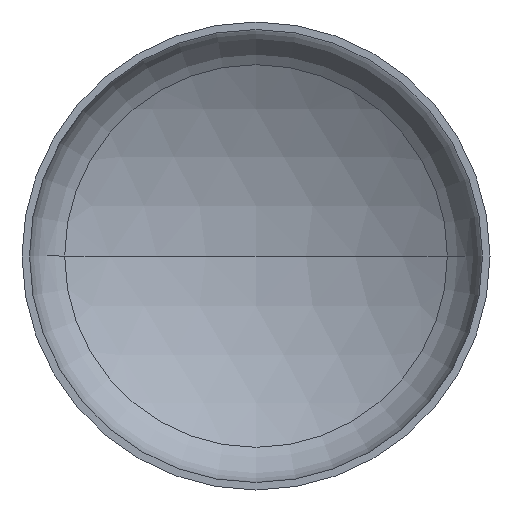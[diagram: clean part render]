
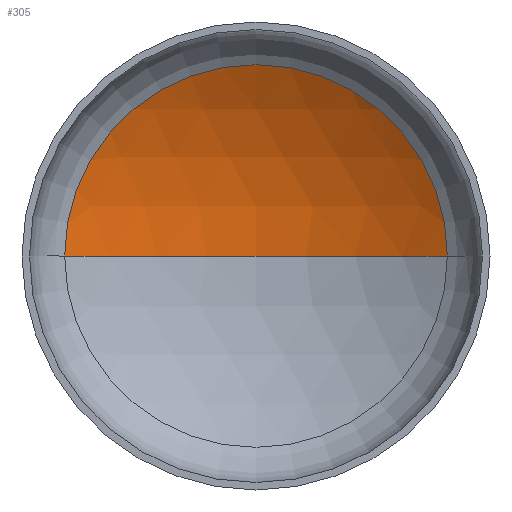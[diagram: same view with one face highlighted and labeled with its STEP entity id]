
A CAD part, front view. The second image highlights one B-rep face of the part: STEP entity #305.
In plain terms, the highlighted spherical face has radius 2240 mm.
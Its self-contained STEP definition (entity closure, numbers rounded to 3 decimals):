
#4 = ORIENTED_EDGE ( 'NONE', *, *, #130, .T. ) ;
#6 = DIRECTION ( 'NONE',  ( 0., -1., 0. ) ) ;
#16 = EDGE_LOOP ( 'NONE', ( #23, #4, #129 ) ) ;
#23 = ORIENTED_EDGE ( 'NONE', *, *, #131, .F. ) ;
#36 = DIRECTION ( 'NONE',  ( 0., 0., 1. ) ) ;
#43 = AXIS2_PLACEMENT_3D ( 'NONE', #140, #399, #150 ) ;
#54 = AXIS2_PLACEMENT_3D ( 'NONE', #267, #36, #196 ) ;
#57 = AXIS2_PLACEMENT_3D ( 'NONE', #281, #193, #219 ) ;
#62 = AXIS2_PLACEMENT_3D ( 'NONE', #141, #6, #335 ) ;
#95 = VERTEX_POINT ( 'NONE', #239 ) ;
#104 = VERTEX_POINT ( 'NONE', #235 ) ;
#110 = VERTEX_POINT ( 'NONE', #241 ) ;
#128 = EDGE_CURVE ( 'NONE', #104, #95, #322, .T. ) ;
#129 = ORIENTED_EDGE ( 'NONE', *, *, #128, .T. ) ;
#130 = EDGE_CURVE ( 'NONE', #110, #104, #200, .T. ) ;
#131 = EDGE_CURVE ( 'NONE', #110, #95, #377, .T. ) ;
#140 = CARTESIAN_POINT ( 'NONE',  ( 0., -1415.788, 0. ) ) ;
#141 = CARTESIAN_POINT ( 'NONE',  ( 0., 509.607, 0. ) ) ;
#150 = DIRECTION ( 'NONE',  ( -1., 0., 0. ) ) ;
#193 = DIRECTION ( 'NONE',  ( 0., 0., -1. ) ) ;
#196 = DIRECTION ( 'NONE',  ( 1., 0., 0. ) ) ;
#200 = CIRCLE ( 'NONE', #57, 2240. ) ;
#219 = DIRECTION ( 'NONE',  ( -1., 0., 0. ) ) ;
#231 = SPHERICAL_SURFACE ( 'NONE', #43, 2240. ) ;
#235 = CARTESIAN_POINT ( 'NONE',  ( 1144.751, 509.607, 0. ) ) ;
#238 = FACE_OUTER_BOUND ( 'NONE', #16, .T. ) ;
#239 = CARTESIAN_POINT ( 'NONE',  ( -1144.751, 509.607, 0. ) ) ;
#241 = CARTESIAN_POINT ( 'NONE',  ( 0., 824.212, 0. ) ) ;
#267 = CARTESIAN_POINT ( 'NONE',  ( 0., -1415.788, 0. ) ) ;
#281 = CARTESIAN_POINT ( 'NONE',  ( 0., -1415.788, 0. ) ) ;
#305 = ADVANCED_FACE ( 'NONE', ( #238 ), #231, .F. ) ;
#322 = CIRCLE ( 'NONE', #62, 1144.751 ) ;
#335 = DIRECTION ( 'NONE',  ( 1., 0., 0. ) ) ;
#377 = CIRCLE ( 'NONE', #54, 2240. ) ;
#399 = DIRECTION ( 'NONE',  ( 0., 0., -1. ) ) ;
